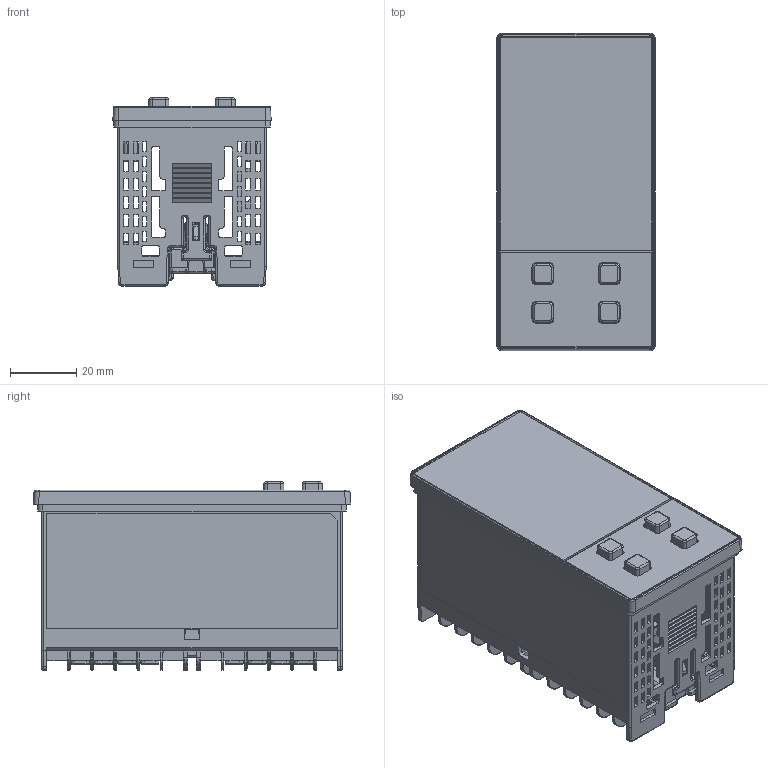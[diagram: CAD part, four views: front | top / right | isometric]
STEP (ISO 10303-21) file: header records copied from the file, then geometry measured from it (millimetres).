
FILE_DESCRIPTION((''),'2;1');
FILE_NAME('ME_C82_ASM','2018-05-24T',('Harry'),(''),'CREO PARAMETRIC BY PTC INC, 2014350','CREO PARAMETRIC BY PTC INC, 2014350','');
FILE_SCHEMA(('CONFIG_CONTROL_DESIGN','GEOMETRIC_VALIDATION_PROPERTIES_MIM'));
Products named in the file (10): ME_C82_COVER_FRONT; ME_C82_HOUSING; ME_C82_DECO_FRONT; ME_C82_O-RING_OUT; ME_C82_LCD_GLASS; ME_C82_PCB_CNTL_SET_ASM; ME_C82_PCB_SET_ASM; ME_C42_RBKY; ME_C42_COVER_OPT; ME_C82_ASM
Assembly tree (12 placements, depth 4):
  ME_C82_ASM
    ME_C82_COVER_FRONT
    ME_C82_HOUSING
    ME_C82_DECO_FRONT
    ME_C82_O-RING_OUT
    ME_C82_PCB_SET_ASM
      ME_C82_PCB_CNTL_SET_ASM
        ME_C82_LCD_GLASS
    ME_C42_RBKY  x4
    ME_C42_COVER_OPT
Bounding box: 47.8 x 95.8 x 56.8 mm (x, y, z)
Volume: 36808.4 mm3; surface area: 70789.8 mm2
Topology: 10 solids, 10 shells, 4096 faces, 10981 edges, 6940 vertices
Faces by surface type: plane 2574, cylinder 992, bspline 334, cone 146, torus 34, sphere 16
Entity records: 163033 total; most frequent: CARTESIAN_POINT 44292, ORIENTED_EDGE 20870, DIRECTION 17451, EDGE_CURVE 10435, VECTOR 8063, LINE 8063, PRESENTATION_STYLE_ASSIGNMENT 7976, STYLED_ITEM 7974
